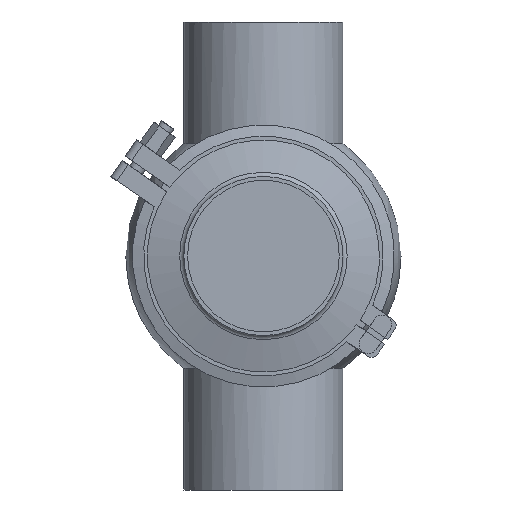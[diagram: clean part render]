
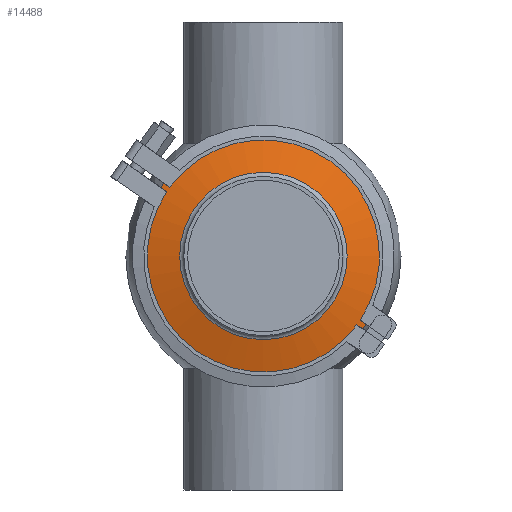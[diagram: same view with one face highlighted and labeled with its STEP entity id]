
A CAD part, front view. The second image highlights one B-rep face of the part: STEP entity #14488.
In plain terms, the highlighted conical face has half-angle 75 degrees and reference radius 66 mm.
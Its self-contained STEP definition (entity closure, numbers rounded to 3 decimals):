
#172 = AXIS2_PLACEMENT_3D ( 'NONE', #19341, #15783, #17757 ) ;
#662 = ORIENTED_EDGE ( 'NONE', *, *, #10888, .T. ) ;
#1771 = CARTESIAN_POINT ( 'NONE',  ( 0., 5.5, 66. ) ) ;
#1816 = CIRCLE ( 'NONE', #7166, 66. ) ;
#2636 = CARTESIAN_POINT ( 'NONE',  ( 0., 5.5, 0. ) ) ;
#2959 = DIRECTION ( 'NONE',  ( 0., 0., 1. ) ) ;
#4224 = ORIENTED_EDGE ( 'NONE', *, *, #8956, .F. ) ;
#4348 = CARTESIAN_POINT ( 'NONE',  ( 0., 5.5, 0. ) ) ;
#4555 = CIRCLE ( 'NONE', #172, 44.724 ) ;
#7166 = AXIS2_PLACEMENT_3D ( 'NONE', #2636, #13971, #2959 ) ;
#7855 = CARTESIAN_POINT ( 'NONE',  ( 0., -0.201, 44.724 ) ) ;
#7931 = CONICAL_SURFACE ( 'NONE', #14658, 66., 1.309 ) ;
#8956 = EDGE_CURVE ( 'NONE', #14170, #14170, #1816, .T. ) ;
#9129 = EDGE_LOOP ( 'NONE', ( #662 ) ) ;
#10888 = EDGE_CURVE ( 'NONE', #11112, #11112, #4555, .T. ) ;
#11112 = VERTEX_POINT ( 'NONE', #7855 ) ;
#11151 = EDGE_LOOP ( 'NONE', ( #4224 ) ) ;
#12089 = FACE_OUTER_BOUND ( 'NONE', #11151, .T. ) ;
#13971 = DIRECTION ( 'NONE',  ( 0., 1., 0. ) ) ;
#14170 = VERTEX_POINT ( 'NONE', #1771 ) ;
#14488 = ADVANCED_FACE ( 'NONE', ( #18714, #12089 ), #7931, .T. ) ;
#14658 = AXIS2_PLACEMENT_3D ( 'NONE', #4348, #20362, #17357 ) ;
#15783 = DIRECTION ( 'NONE',  ( 0., 1., 0. ) ) ;
#17357 = DIRECTION ( 'NONE',  ( 0., 0., 1. ) ) ;
#17757 = DIRECTION ( 'NONE',  ( 0., 0., 1. ) ) ;
#18714 = FACE_BOUND ( 'NONE', #9129, .T. ) ;
#19341 = CARTESIAN_POINT ( 'NONE',  ( 0., -0.201, 0. ) ) ;
#20362 = DIRECTION ( 'NONE',  ( 0., 1., 0. ) ) ;
